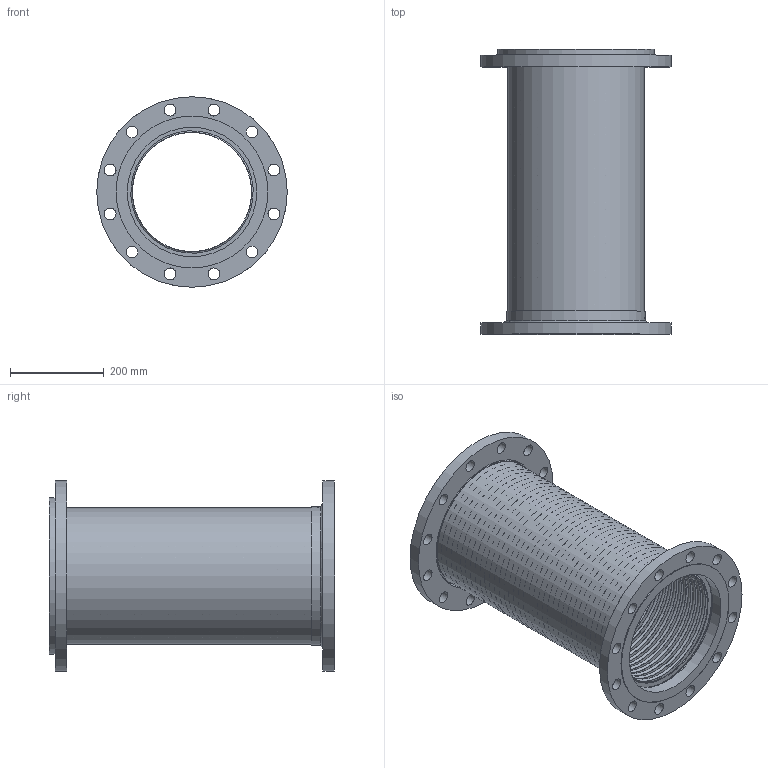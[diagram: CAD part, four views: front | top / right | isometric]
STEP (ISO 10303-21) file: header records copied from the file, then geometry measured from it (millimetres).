
FILE_DESCRIPTION((''),'2;1');
FILE_NAME('C:\2012_Work\Designs\FFLSS\10in_FFLSS_A-30642-2\FFLSS-10x24in.stp','2013-08-26T13:32:04',('KShiels'),(''),'Autodesk Inventor 2012','Autodesk Inventor 2012','');
FILE_SCHEMA(('AUTOMOTIVE_DESIGN { 1 0 10303 214 1 1 1 1 }'));
Length unit declared in the file: inch
Products named in the file (8): FFLSS-10x24in; FFLSS-10x24in_Welds; A-30642-2_10in_FFLSS-BRAID; A-30642-2_10in_FFLSS-BELLOWS; A-30642-2_10in_FFLSS-BRAID-COLLAR; A-30354-2_10in-FIXED-FLANGE; A-30355-1_10in-FLOATING-FLANGE; A-30356-2_10in-WASHER
Assembly tree (8 placements, depth 2):
  FFLSS-10x24in
    FFLSS-10x24in_Welds
    A-30642-2_10in_FFLSS-BRAID
    A-30642-2_10in_FFLSS-BELLOWS
    A-30642-2_10in_FFLSS-BRAID-COLLAR  x2
    A-30354-2_10in-FIXED-FLANGE
    A-30355-1_10in-FLOATING-FLANGE
    A-30356-2_10in-WASHER
Bounding box: 406.4 x 609.6 x 406.4 mm (x, y, z)
Volume: 4482844.4 mm3; surface area: 4602412.5 mm2
Topology: 9 solids, 9 shells, 373 faces, 628 edges, 428 vertices
Faces by surface type: plane 173, torus 158, cylinder 39, bspline 2, cone 1
Full cylindrical faces by diameter (mm): 25.4 x24, 276.225 x2, 291.084 x1, 292.1 x3, 294.481 x4, 300.038 x1, 323.85 x1, 333.375 x1, 406.4 x2
Entity records: 8658 total; most frequent: CARTESIAN_POINT 1801, DIRECTION 1544, ORIENTED_EDGE 798, EDGE_LOOP 784, AXIS2_PLACEMENT_3D 772, FACE_BOUND 415, EDGE_CURVE 399, VERTEX_POINT 397
